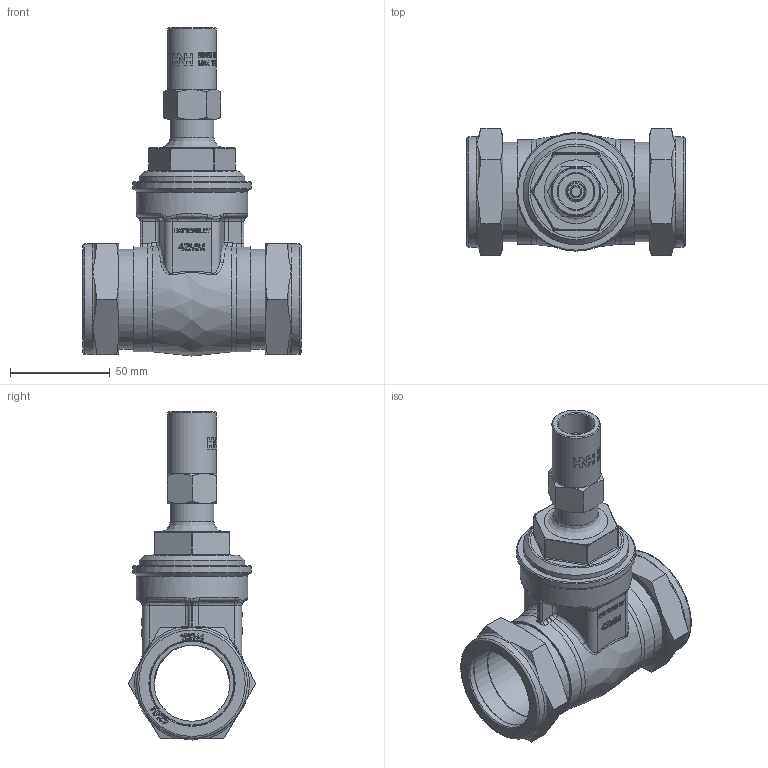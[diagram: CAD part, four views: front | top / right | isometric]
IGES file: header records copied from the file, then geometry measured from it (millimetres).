
Global section: file name: No Iges File Name specified; native system: AutoDesk Inventor R12.0; preprocessor: AutoDesk Inventor Iges Exporter R12.0; date: 20110309.150703; units: millimetre
Bounding box: 109.56 x 64.09 x 164.5 mm (x, y, z)
Volume: 221447.2 mm3; surface area: 64715.6 mm2
Topology: 1 solids, 3 shells, 1275 faces, 3321 edges, 2149 vertices
Faces by surface type: plane 625, bspline 431, cylinder 91, revolution 59, cone 51, torus 18
Full cylindrical faces by diameter (mm): 6 x1, 10 x1, 22 x1, 24.5 x1, 50 x2, 52.6 x2, 53 x1, 55.4 x2, 56 x1, 59.5 x1
